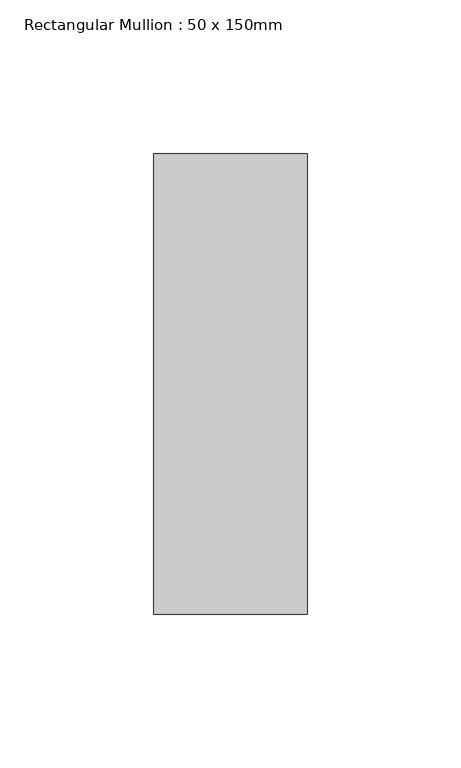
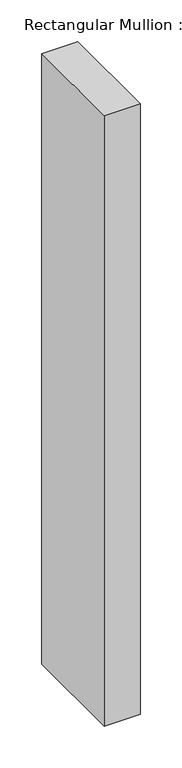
"""IFC4 building model written with IfcOpenShell, lengths in millimetres: member geometry, Rectangular Mullion : 50 x 150mm."""

from ifc_helpers import new_model, si_unit, frame, origin, place, context, project, spatial, polyline, outline, extrude, source, transform, mapped, element, save


def rectangular_mullion_50_x_150mm_8bb159a6(model_context):
    return source(origin(), model_context, "Body", "SweptSolid", [
        extrude(outline(polyline([(25.0, 75.0), (25.0, -75.0), (-25.0, -75.0), (-25.0, 75.0), (25.0, 75.0)])), frame((0.0, 0.0, -895.0), z_axis=(0.0, 0.0, 1.0), x_axis=(1.0, 0.0, 0.0)), (0.0, 0.0, 1.0), 895.0),
    ])


if __name__ == "__main__":
    model = new_model("IFC4")
    model_context = context("Model", 3, world=origin())
    ifc_project = project(units=[si_unit("LENGTHUNIT", "METRE", prefix="MILLI")], contexts=[model_context])
    site = spatial("IfcSite", under=ifc_project)
    building = spatial("IfcBuilding", under=site)
    placement = place(None, origin())
    rectangular_mullion_50_x_150mm_shape = rectangular_mullion_50_x_150mm_8bb159a6(model_context)
    element("IfcMember", 1, ObjectType="Rectangular Mullion : 50 x 150mm", at=placement, inside=building, context=model_context, shape_type="MappedRepresentation", body=[
        mapped(rectangular_mullion_50_x_150mm_shape, transform((0.0, 0.0, 0.0), x_axis=(1.0, 0.0, 0.0), y_axis=(0.0, 1.0, 0.0), z_axis=(0.0, 0.0, 1.0))),
    ])
    save(model, "model.ifc")
